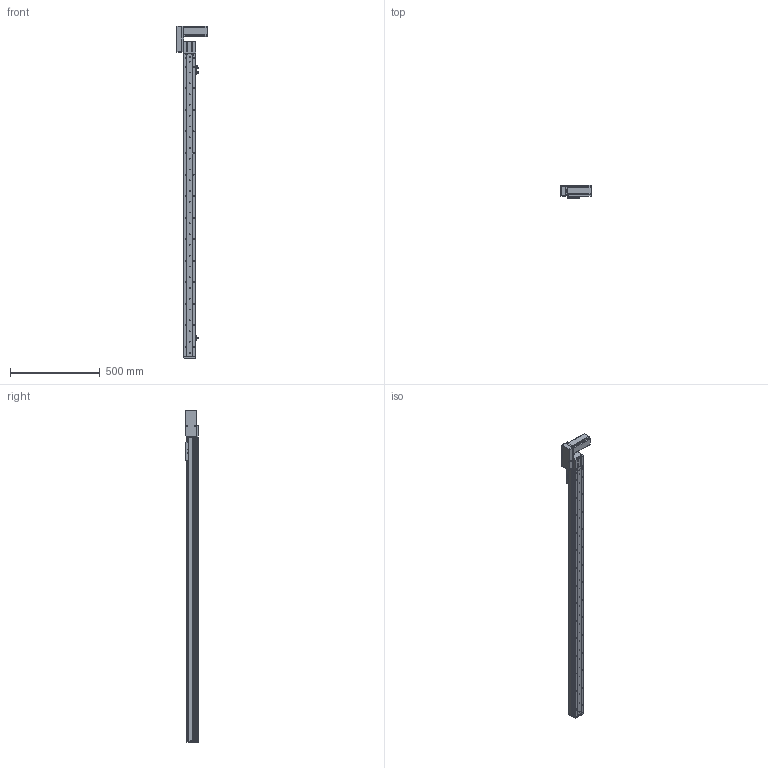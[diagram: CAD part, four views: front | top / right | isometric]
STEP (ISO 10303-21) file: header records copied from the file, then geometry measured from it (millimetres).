
FILE_DESCRIPTION (( 'STEP AP214' ), '1' );
FILE_NAME ('KSD68BS-S1500-MRB-CM.STEP', '2019-10-19T09:39:39', ( '微软用户' ), ( '微软中国' ), 'SwSTEP 2.0', 'SolidWorks 2014', '' );
FILE_SCHEMA (( 'AUTOMOTIVE_DESIGN' ));
Length unit declared in the file: millimetre
Products named in the file (11): 悵誘欶奻狟殏; 68宽马达安装板连板上折同步带; 68宽单导轨半封闭同步带主动轮座右; 68单导轨同步带半封闭端板; KSD68BS 1500俴最裔啣圉猾敕; 覜茼え68遵圉猾敕; KSD68BS半封闭同步带传动导轨座; U倰嫖萇EEㄜSX672; 台达ECMA－C20604AS伺服电机（400W); KSD68BS 1500俴最菁啣圉猾敕; KSD68BS-S1500-MRB-CM
Assembly tree (12 placements, depth 2):
  KSD68BS-S1500-MRB-CM
    KSD68BS 1500俴最菁啣圉猾敕
    台达ECMA－C20604AS伺服电机（400W)
    U倰嫖萇EEㄜSX672  x3
    KSD68BS半封闭同步带传动导轨座
    覜茼え68遵圉猾敕
    KSD68BS 1500俴最裔啣圉猾敕
    68单导轨同步带半封闭端板
    68宽单导轨半封闭同步带主动轮座右
    68宽马达安装板连板上折同步带
    悵誘欶奻狟殏
Bounding box: 167.2 x 70.5 x 1849.5 mm (x, y, z)
Volume: 3000915.1 mm3; surface area: 1106509.8 mm2
Topology: 13 solids, 13 shells, 1572 faces, 4598 edges, 2996 vertices
Faces by surface type: cylinder 824, plane 665, cone 83
Entity records: 61065 total; most frequent: CARTESIAN_POINT 12262, ORIENTED_EDGE 7948, DIRECTION 7694, EDGE_CURVE 3974, AXIS2_PLACEMENT_3D 2772, VERTEX_POINT 2620, LINE 2150, VECTOR 2150
